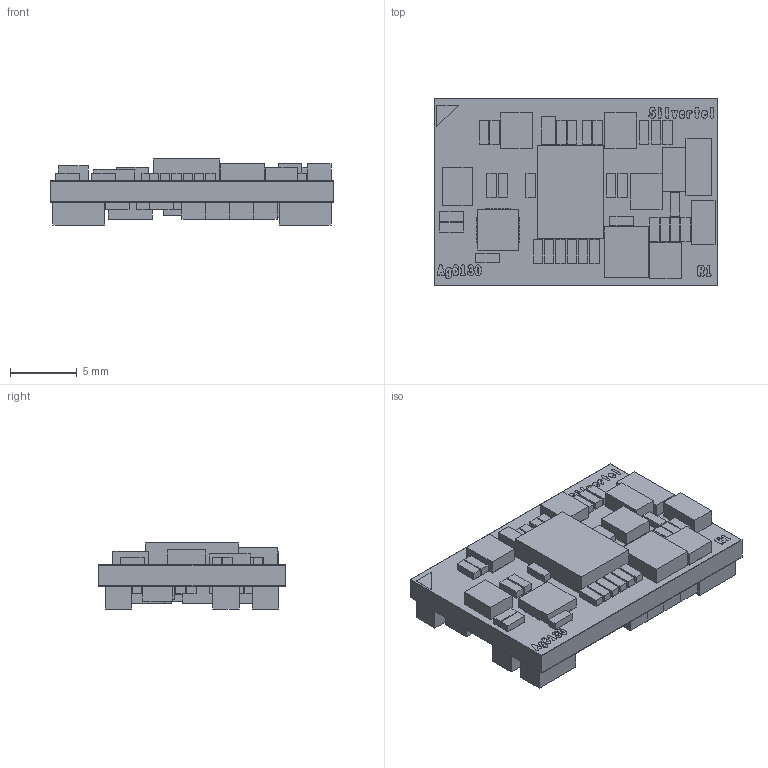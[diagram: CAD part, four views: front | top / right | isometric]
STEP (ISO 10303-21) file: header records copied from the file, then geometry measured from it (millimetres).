
FILE_DESCRIPTION(('FreeCAD Model'),'2;1');
FILE_NAME('Open CASCADE Shape Model','2025-11-28T09:44:04',(''),(''), 'Open CASCADE STEP processor 7.8','FreeCAD','Unknown');
FILE_SCHEMA(('AUTOMOTIVE_DESIGN { 1 0 10303 214 1 1 1 1 }'));
Length unit declared in the file: millimetre
Products named in the file (1): Ag6130_Simplified
Bounding box: 21.21 x 13.92 x 4.94 mm (x, y, z)
Volume: 766.9 mm3; surface area: 2731.3 mm2
Topology: 75 solids, 84 shells, 1792 faces, 4852 edges, 3221 vertices
Faces by surface type: extrusion 1612, revolution 180
Entity records: 59906 total; most frequent: CARTESIAN_POINT 10054, ORIENTED_EDGE 9694, DIRECTION 8792, VECTOR 7890, LINE 6278, EDGE_CURVE 4848, VERTEX_POINT 3221, FACE_BOUND 2226
